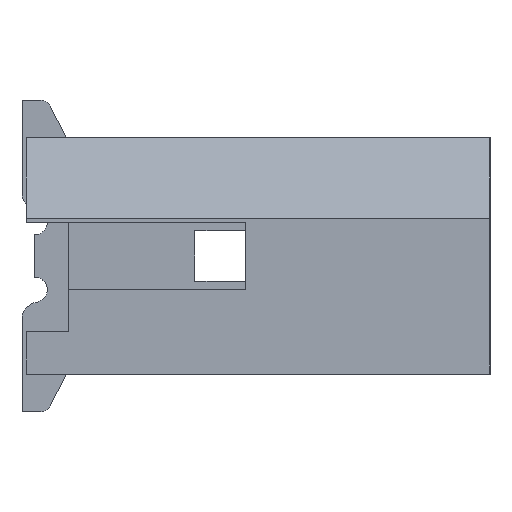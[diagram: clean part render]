
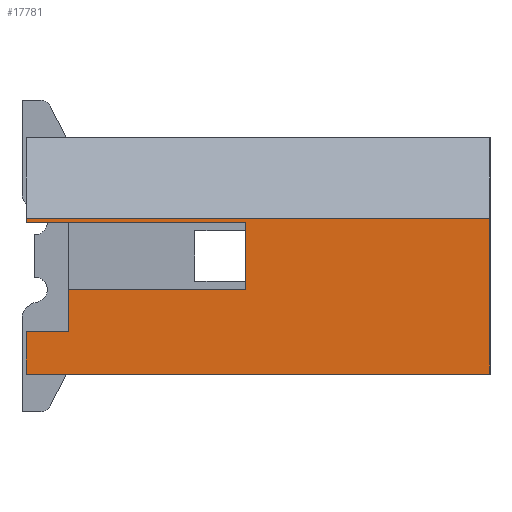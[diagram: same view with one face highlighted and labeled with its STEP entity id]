
A CAD part, left-side view. The second image highlights one B-rep face of the part: STEP entity #17781.
In plain terms, the highlighted planar face has unit normal (-1, 0, 0).
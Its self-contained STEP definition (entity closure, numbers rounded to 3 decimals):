
#231 = CARTESIAN_POINT ( 'NONE',  ( -4., -2.75, 0.45 ) ) ;
#346 = CARTESIAN_POINT ( 'NONE',  ( -4., 2.75, -0.9 ) ) ;
#487 = LINE ( 'NONE', #22540, #16687 ) ;
#1386 = VERTEX_POINT ( 'NONE', #4001 ) ;
#2063 = VECTOR ( 'NONE', #26046, 1000. ) ;
#2097 = PLANE ( 'NONE',  #3375 ) ;
#2421 = ORIENTED_EDGE ( 'NONE', *, *, #11555, .F. ) ;
#3170 = ORIENTED_EDGE ( 'NONE', *, *, #20604, .T. ) ;
#3375 = AXIS2_PLACEMENT_3D ( 'NONE', #17209, #26215, #3882 ) ;
#3485 = EDGE_CURVE ( 'NONE', #9841, #13893, #15042, .T. ) ;
#3515 = DIRECTION ( 'NONE',  ( 0., 1., 0. ) ) ;
#3675 = EDGE_CURVE ( 'NONE', #4700, #9415, #11052, .T. ) ;
#3882 = DIRECTION ( 'NONE',  ( 0., 0., 1. ) ) ;
#4001 = CARTESIAN_POINT ( 'NONE',  ( -4., 2.25, -0.9 ) ) ;
#4358 = ORIENTED_EDGE ( 'NONE', *, *, #22970, .F. ) ;
#4557 = CARTESIAN_POINT ( 'NONE',  ( -4., 2.75, 0.45 ) ) ;
#4700 = VERTEX_POINT ( 'NONE', #231 ) ;
#6103 = FACE_OUTER_BOUND ( 'NONE', #19066, .T. ) ;
#6516 = VECTOR ( 'NONE', #16408, 1000. ) ;
#6841 = EDGE_CURVE ( 'NONE', #14611, #16752, #8667, .T. ) ;
#6950 = DIRECTION ( 'NONE',  ( 0., 1., 0. ) ) ;
#7070 = CARTESIAN_POINT ( 'NONE',  ( -4., 2.75, -1.4 ) ) ;
#7384 = ORIENTED_EDGE ( 'NONE', *, *, #6841, .T. ) ;
#7524 = VECTOR ( 'NONE', #3515, 1000. ) ;
#8245 = CARTESIAN_POINT ( 'NONE',  ( -4., 0.15, -0.4 ) ) ;
#8458 = VECTOR ( 'NONE', #20507, 1000. ) ;
#8667 = LINE ( 'NONE', #8801, #12838 ) ;
#8801 = CARTESIAN_POINT ( 'NONE',  ( -4., 2.75, 0.45 ) ) ;
#9415 = VERTEX_POINT ( 'NONE', #24100 ) ;
#9841 = VERTEX_POINT ( 'NONE', #15873 ) ;
#10184 = EDGE_CURVE ( 'NONE', #4700, #14611, #27645, .T. ) ;
#10432 = VERTEX_POINT ( 'NONE', #7070 ) ;
#11052 = LINE ( 'NONE', #26872, #22645 ) ;
#11555 = EDGE_CURVE ( 'NONE', #9841, #18594, #22719, .T. ) ;
#12042 = ORIENTED_EDGE ( 'NONE', *, *, #3675, .F. ) ;
#12838 = VECTOR ( 'NONE', #17836, 1000. ) ;
#13164 = CARTESIAN_POINT ( 'NONE',  ( -4., -2.75, -1.4 ) ) ;
#13893 = VERTEX_POINT ( 'NONE', #15328 ) ;
#14611 = VERTEX_POINT ( 'NONE', #4557 ) ;
#14752 = ORIENTED_EDGE ( 'NONE', *, *, #18952, .F. ) ;
#15018 = CARTESIAN_POINT ( 'NONE',  ( -4., 2.75, -0.9 ) ) ;
#15042 = LINE ( 'NONE', #8245, #7524 ) ;
#15328 = CARTESIAN_POINT ( 'NONE',  ( -4., 2.25, -0.4 ) ) ;
#15613 = DIRECTION ( 'NONE',  ( 0., 1., 0. ) ) ;
#15641 = DIRECTION ( 'NONE',  ( 0., 0., -1. ) ) ;
#15688 = VECTOR ( 'NONE', #15613, 1000. ) ;
#15873 = CARTESIAN_POINT ( 'NONE',  ( -4., 0.15, -0.4 ) ) ;
#16408 = DIRECTION ( 'NONE',  ( 0., 1., 0. ) ) ;
#16563 = CARTESIAN_POINT ( 'NONE',  ( -4., -2.75, 0.45 ) ) ;
#16687 = VECTOR ( 'NONE', #25337, 1000. ) ;
#16752 = VERTEX_POINT ( 'NONE', #25771 ) ;
#17209 = CARTESIAN_POINT ( 'NONE',  ( -4., 2.75, -1.4 ) ) ;
#17781 = ADVANCED_FACE ( 'NONE', ( #6103 ), #2097, .T. ) ;
#17836 = DIRECTION ( 'NONE',  ( 0., 0., -1. ) ) ;
#18285 = CARTESIAN_POINT ( 'NONE',  ( -4., 0.15, -0.4 ) ) ;
#18340 = EDGE_CURVE ( 'NONE', #1386, #20177, #24334, .T. ) ;
#18594 = VERTEX_POINT ( 'NONE', #24365 ) ;
#18719 = ORIENTED_EDGE ( 'NONE', *, *, #18340, .T. ) ;
#18952 = EDGE_CURVE ( 'NONE', #18594, #16752, #487, .T. ) ;
#19066 = EDGE_LOOP ( 'NONE', ( #21056, #3170, #18719, #23665, #4358, #12042, #19889, #7384, #14752, #2421 ) ) ;
#19889 = ORIENTED_EDGE ( 'NONE', *, *, #10184, .T. ) ;
#20177 = VERTEX_POINT ( 'NONE', #346 ) ;
#20414 = LINE ( 'NONE', #13164, #23947 ) ;
#20507 = DIRECTION ( 'NONE',  ( 0., 0., 1. ) ) ;
#20604 = EDGE_CURVE ( 'NONE', #13893, #1386, #20891, .T. ) ;
#20891 = LINE ( 'NONE', #25607, #2063 ) ;
#21056 = ORIENTED_EDGE ( 'NONE', *, *, #3485, .T. ) ;
#22540 = CARTESIAN_POINT ( 'NONE',  ( -4., 0.15, 0.4 ) ) ;
#22543 = CARTESIAN_POINT ( 'NONE',  ( -4., 2.25, -0.9 ) ) ;
#22645 = VECTOR ( 'NONE', #15641, 1000. ) ;
#22719 = LINE ( 'NONE', #18285, #8458 ) ;
#22765 = VECTOR ( 'NONE', #28489, 1000. ) ;
#22970 = EDGE_CURVE ( 'NONE', #9415, #10432, #20414, .T. ) ;
#23665 = ORIENTED_EDGE ( 'NONE', *, *, #28853, .T. ) ;
#23947 = VECTOR ( 'NONE', #6950, 1000. ) ;
#24100 = CARTESIAN_POINT ( 'NONE',  ( -4., -2.75, -1.4 ) ) ;
#24334 = LINE ( 'NONE', #22543, #15688 ) ;
#24365 = CARTESIAN_POINT ( 'NONE',  ( -4., 0.15, 0.4 ) ) ;
#25337 = DIRECTION ( 'NONE',  ( 0., 1., 0. ) ) ;
#25607 = CARTESIAN_POINT ( 'NONE',  ( -4., 2.25, -0.4 ) ) ;
#25771 = CARTESIAN_POINT ( 'NONE',  ( -4., 2.75, 0.4 ) ) ;
#26046 = DIRECTION ( 'NONE',  ( 0., 0., -1. ) ) ;
#26215 = DIRECTION ( 'NONE',  ( -1., 0., 0. ) ) ;
#26872 = CARTESIAN_POINT ( 'NONE',  ( -4., -2.75, 0.45 ) ) ;
#27645 = LINE ( 'NONE', #16563, #6516 ) ;
#28489 = DIRECTION ( 'NONE',  ( 0., 0., -1. ) ) ;
#28627 = LINE ( 'NONE', #15018, #22765 ) ;
#28853 = EDGE_CURVE ( 'NONE', #20177, #10432, #28627, .T. ) ;
